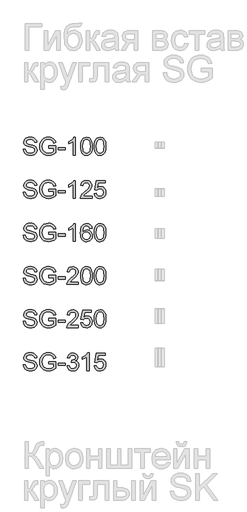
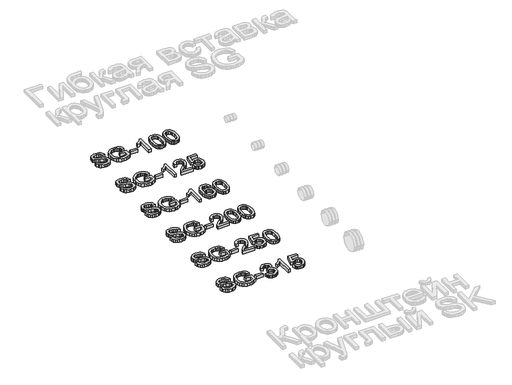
# One storey, part 7 of 31: 1 proxy.
"""IFC4 building model written with IfcOpenShell, lengths in millimetres."""

from ifc_helpers import new_model, si_unit, origin, origin_with_axes, place, context, project, spatial, polyline, outline, extrude, element, save

model = new_model("IFC4")

# Units and contexts
model_context = context("Model", 3, world=origin())
ifc_project = project(units=[si_unit("LENGTHUNIT", "METRE", prefix="MILLI")], contexts=[model_context])

# Site, building, storey
site = spatial("IfcSite", under=ifc_project)
building = spatial("IfcBuilding", under=site)
storey = spatial("IfcBuildingStorey", under=building, Name="Этаж 01", Elevation=0.0)

# Proxy
placement = place(None, origin())
element("IfcBuildingElementProxy", 1, Name="300 мм Arial", ObjectType="300 мм Arial", at=placement, inside=storey, context=model_context, shape_type="SweptSolid", body=[
    extrude(outline(polyline([(10389.7433415, -31301.6957444), (10427.4144578, -31301.6957444), (10431.7370713, -31322.6006388), (10439.5545637, -31339.4036489), (10451.7498518, -31352.7393712), (10469.2058525, -31363.2424022), (10490.5430082, -31370.0574161), (10514.3817615, -31372.3290875), (10535.3694293, -31370.6092391), (10553.745135, -31365.4496941), (10568.6351587, -31357.2827139), (10579.1657809, -31346.5405596), (10585.4289718, -31334.2073157), (10587.5167022, -31321.2670665), (10585.9532037, -31308.6579111), (10581.2627082, -31297.759407), (10571.7345646, -31288.4611896), (10555.6581214, -31280.6528943), (10500.8069159, -31266.2687082), (10464.8004656, -31256.7497616), (10441.7618557, -31247.6906675), (10423.009071, -31235.0171328), (10409.7193339, -31219.6580595), (10401.8006739, -31201.9445414), (10399.1611206, -31182.2076723), (10402.4260733, -31160.1439497), (10412.2209314, -31139.5701491), (10428.2881776, -31122.1325425), (10450.3702943, -31109.4774019), (10476.8761921, -31101.7794712), (10506.2147812, -31099.2134942), (10537.9997856, -31101.8990328), (10565.8116644, -31109.9556485), (10588.6571363, -31123.2177944), (10605.5429199, -31141.5199237), (10616.2298919, -31163.7216021), (10620.4789289, -31188.6823955), (10582.8078126, -31188.6823955), (10575.8916311, -31166.2048056), (10561.4706569, -31149.9812096), (10538.9378847, -31140.1587603), (10507.6863092, -31136.8846105), (10475.6989697, -31140.1219721), (10453.7548087, -31149.8340568), (10441.0628799, -31164.1262723), (10436.8322369, -31181.1040264), (10439.8304752, -31195.5801829), (10448.82519, -31207.223648), (10470.0887693, -31217.6347085), (10510.3350596, -31228.2664981), (10551.8689368, -31238.3648589), (10576.9952771, -31247.1756327), (10598.4703886, -31260.8424488), (10613.4523828, -31277.7098383), (10622.2539595, -31297.5938601), (10625.1878185, -31320.3105733), (10621.8125012, -31343.5331243), (10611.6865492, -31365.3761177), (10595.2238299, -31384.1748877), (10572.8382105, -31398.2647681), (10545.9184455, -31407.0663449), (10515.8532895, -31410.0002038), (10478.9455283, -31406.8364186), (10448.5676726, -31397.3450631), (10424.3702343, -31381.4893491), (10406.0037257, -31359.2324884), (10394.2131078, -31332.1195854), (10389.7433415, -31301.6957444)])), origin_with_axes(), (0.0, 0.0, 1.0), 50.0),
    extrude(outline(polyline([(10822.9611791, -31287.5690758), (10822.9611791, -31249.8979595), (10945.3923071, -31249.8979595), (10945.3923071, -31362.5434264), (10915.6398507, -31383.2367886), (10884.9492953, -31398.0808271), (10853.3942171, -31407.0203596), (10821.0481927, -31410.0002038), (10778.7877485, -31405.2637231), (10740.5924003, -31391.054281), (10708.8625783, -31367.8685183), (10685.9987123, -31336.2030755), (10672.1755463, -31298.2192595), (10667.5678243, -31256.078377), (10672.1571522, -31213.6339918), (10685.9251359, -31174.1510567), (10708.3015582, -31141.03248), (10738.7162022, -31117.6811704), (10775.7619191, -31103.8304133), (10818.0315603, -31099.2134942), (10849.0624066, -31101.8898358), (10876.966256, -31109.9188603), (10900.4647184, -31122.7211537), (10918.279404, -31139.7173019), (10931.4587765, -31161.7258423), (10941.0512995, -31189.5653123), (10906.3232392, -31199.3509733), (10898.5701261, -31179.4945426), (10889.14315, -31164.5125484), (10876.6719504, -31153.2185711), (10859.7861668, -31144.4261914), (10839.6538246, -31138.7700058), (10817.4429491, -31136.8846105), (10791.4428891, -31138.9171586), (10769.2136196, -31145.0148026), (10750.8379139, -31154.4141876), (10736.3985456, -31166.3519584), (10717.0111645, -31195.3778478), (10708.1819966, -31223.815126), (10705.2389406, -31254.5332726), (10708.7798048, -31290.558117), (10719.4023974, -31320.2002087), (10736.7848217, -31343.2480157), (10760.6051809, -31359.4900058), (10788.4814391, -31369.119317), (10818.0315603, -31372.3290875), (10844.1235908, -31369.9102633), (10869.5718279, -31362.653791), (10891.6723387, -31352.6565978), (10907.7211908, -31342.0156111), (10907.7211908, -31287.5690758), (10822.9611791, -31287.5690758)])), origin_with_axes(), (0.0, 0.0, 1.0), 50.0),
    extrude(outline(polyline([(10983.0634234, -31315.822413), (10983.0634234, -31278.1512967), (11100.7856618, -31278.1512967), (11100.7856618, -31315.822413), (10983.0634234, -31315.822413)])), origin_with_axes(), (0.0, 0.0, 1.0), 50.0),
    extrude(outline(polyline([(11275.0145747, -31405.2913142), (11237.3434584, -31405.2913142), (11237.3434584, -31170.4354485), (11201.6589049, -31195.8560944), (11162.0012258, -31214.8755935), (11162.0012258, -31179.2646164), (11191.5881353, -31163.1697791), (11217.2203133, -31144.0215212), (11237.4262319, -31123.6592528), (11250.7343631, -31103.9223838), (11275.0145747, -31103.9223838), (11275.0145747, -31405.2913142)])), origin_with_axes(), (0.0, 0.0, 1.0), 50.0),
    extrude(outline(polyline([(11364.483476, -31257.0348702), (11367.251788, -31208.7963435), (11375.556724, -31170.3250839), (11389.3155106, -31141.03248), (11408.4453744, -31120.3299208), (11433.084271, -31108.024268), (11463.3701563, -31103.9223838), (11486.5835102, -31106.3504049), (11507.3688429, -31113.6344684), (11524.7512672, -31125.4894657), (11537.7558957, -31141.6302883), (11547.578345, -31161.9189803), (11555.4142315, -31186.2175861), (11560.5461853, -31217.0736884), (11562.2568366, -31257.0348702), (11559.5161157, -31304.9974853), (11551.2939531, -31343.3767744), (11537.6179399, -31372.6969695), (11518.5156673, -31393.4823022), (11493.8215884, -31405.8707284), (11463.3701563, -31410.0002038), (11442.6216117, -31408.206779), (11424.227512, -31402.8265049), (11408.187857, -31393.8593812), (11394.5026468, -31381.3054081), (11381.3692595, -31358.6116876), (11371.9882687, -31330.3353577), (11366.3596741, -31296.4764186), (11364.483476, -31257.0348702)]), holes=[polyline([(11402.1545923, -31256.9612938), (11406.5691762, -31316.2178861), (11412.0874061, -31336.4858848), (11419.812928, -31350.5136851), (11439.531403, -31366.8752369), (11463.3701563, -31372.3290875), (11487.2089096, -31366.8568428), (11506.9273845, -31350.4401087), (11514.6529064, -31336.3893158), (11520.1711363, -31316.1259156), (11524.5857203, -31256.9612938), (11520.3182891, -31199.0382736), (11514.9840002, -31178.8369536), (11507.5159957, -31164.4757602), (11487.8343089, -31147.3140651), (11462.9286979, -31141.5935001), (11439.347462, -31146.6334834), (11420.4015392, -31161.7534334), (11412.4184999, -31177.3884182), (11406.716329, -31198.4680565), (11402.1545923, -31256.9612938)])]), origin_with_axes(), (0.0, 0.0, 1.0), 50.0),
    extrude(outline(polyline([(11595.2190633, -31257.0348702), (11597.9873754, -31208.7963435), (11606.2923114, -31170.3250839), (11620.051098, -31141.03248), (11639.1809618, -31120.3299208), (11663.8198584, -31108.024268), (11694.1057436, -31103.9223838), (11717.3190975, -31106.3504049), (11738.1044303, -31113.6344684), (11755.4868545, -31125.4894657), (11768.4914831, -31141.6302883), (11778.3139323, -31161.9189803), (11786.1498188, -31186.2175861), (11791.2817727, -31217.0736884), (11792.9924239, -31257.0348702), (11790.2517031, -31304.9974853), (11782.0295405, -31343.3767744), (11768.3535273, -31372.6969695), (11749.2512547, -31393.4823022), (11724.5571758, -31405.8707284), (11694.1057436, -31410.0002038), (11673.3571991, -31408.206779), (11654.9630994, -31402.8265049), (11638.9234444, -31393.8593812), (11625.2382341, -31381.3054081), (11612.1048469, -31358.6116876), (11602.723856, -31330.3353577), (11597.0952615, -31296.4764186), (11595.2190633, -31257.0348702)]), holes=[polyline([(11632.8901796, -31256.9612938), (11637.3047636, -31316.2178861), (11642.8229935, -31336.4858848), (11650.5485154, -31350.5136851), (11670.2669904, -31366.8752369), (11694.1057436, -31372.3290875), (11717.9444969, -31366.8568428), (11737.6629719, -31350.4401087), (11745.3884938, -31336.3893158), (11750.9067237, -31316.1259156), (11755.3213076, -31256.9612938), (11751.0538765, -31199.0382736), (11745.7195876, -31178.8369536), (11738.2515831, -31164.4757602), (11718.5698963, -31147.3140651), (11693.6642852, -31141.5935001), (11670.0830494, -31146.6334834), (11651.1371266, -31161.7534334), (11643.1540873, -31177.3884182), (11637.4519164, -31198.4680565), (11632.8901796, -31256.9612938)])]), origin_with_axes(), (0.0, 0.0, 1.0), 50.0),
    extrude(outline(polyline([(10389.7433415, -32033.5446515), (10427.4144578, -32033.5446515), (10431.7370713, -32054.4495458), (10439.5545637, -32071.252556), (10451.7498518, -32084.5882783), (10469.2058525, -32095.0913092), (10490.5430082, -32101.9063232), (10514.3817615, -32104.1779945), (10535.3694293, -32102.4581462), (10553.745135, -32097.2986012), (10568.6351587, -32089.1316209), (10579.1657809, -32078.3894667), (10585.4289718, -32066.0562228), (10587.5167022, -32053.1159736), (10585.9532037, -32040.5068182), (10581.2627082, -32029.6083141), (10571.7345646, -32020.3100967), (10555.6581214, -32012.5018013), (10500.8069159, -31998.1176153), (10464.8004656, -31988.5986687), (10441.7618557, -31979.5395746), (10423.009071, -31966.8660398), (10409.7193339, -31951.5069665), (10401.8006739, -31933.7934485), (10399.1611206, -31914.0565794), (10402.4260733, -31891.9928568), (10412.2209314, -31871.4190562), (10428.2881776, -31853.9814496), (10450.3702943, -31841.326309), (10476.8761921, -31833.6283782), (10506.2147812, -31831.0624013), (10537.9997856, -31833.7479399), (10565.8116644, -31841.8045556), (10588.6571363, -31855.0667015), (10605.5429199, -31873.3688308), (10616.2298919, -31895.5705092), (10620.4789289, -31920.5313025), (10582.8078126, -31920.5313025), (10575.8916311, -31898.0537126), (10561.4706569, -31881.8301166), (10538.9378847, -31872.0076674), (10507.6863092, -31868.7335176), (10475.6989697, -31871.9708792), (10453.7548087, -31881.6829638), (10441.0628799, -31895.9751794), (10436.8322369, -31912.9529334), (10439.8304752, -31927.4290899), (10448.82519, -31939.0725551), (10470.0887693, -31949.4836156), (10510.3350596, -31960.1154052), (10551.8689368, -31970.213766), (10576.9952771, -31979.0245398), (10598.4703886, -31992.6913559), (10613.4523828, -32009.5587454), (10622.2539595, -32029.4427672), (10625.1878185, -32052.1594804), (10621.8125012, -32075.3820314), (10611.6865492, -32097.2250248), (10595.2238299, -32116.0237948), (10572.8382105, -32130.1136752), (10545.9184455, -32138.9152519), (10515.8532895, -32141.8491108), (10478.9455283, -32138.6853257), (10448.5676726, -32129.1939702), (10424.3702343, -32113.3382562), (10406.0037257, -32091.0813955), (10394.2131078, -32063.9684925), (10389.7433415, -32033.5446515)])), origin_with_axes(), (0.0, 0.0, 1.0), 50.0),
    extrude(outline(polyline([(10822.9611791, -32019.4179828), (10822.9611791, -31981.7468665), (10945.3923071, -31981.7468665), (10945.3923071, -32094.3923335), (10915.6398507, -32115.0856957), (10884.9492953, -32129.9297342), (10853.3942171, -32138.8692667), (10821.0481927, -32141.8491108), (10778.7877485, -32137.1126301), (10740.5924003, -32122.9031881), (10708.8625783, -32099.7174253), (10685.9987123, -32068.0519826), (10672.1755463, -32030.0681666), (10667.5678243, -31987.9272841), (10672.1571522, -31945.4828989), (10685.9251359, -31905.9999637), (10708.3015582, -31872.8813871), (10738.7162022, -31849.5300775), (10775.7619191, -31835.6793203), (10818.0315603, -31831.0624013), (10849.0624066, -31833.7387428), (10876.966256, -31841.7677674), (10900.4647184, -31854.5700608), (10918.279404, -31871.566209), (10931.4587765, -31893.5747493), (10941.0512995, -31921.4142193), (10906.3232392, -31931.1998804), (10898.5701261, -31911.3434497), (10889.14315, -31896.3614555), (10876.6719504, -31885.0674782), (10859.7861668, -31876.2750985), (10839.6538246, -31870.6189128), (10817.4429491, -31868.7335176), (10791.4428891, -31870.7660656), (10769.2136196, -31876.8637097), (10750.8379139, -31886.2630947), (10736.3985456, -31898.2008654), (10717.0111645, -31927.2267548), (10708.1819966, -31955.6640331), (10705.2389406, -31986.3821797), (10708.7798048, -32022.407024), (10719.4023974, -32052.0491158), (10736.7848217, -32075.0969228), (10760.6051809, -32091.3389129), (10788.4814391, -32100.9682241), (10818.0315603, -32104.1779945), (10844.1235908, -32101.7591704), (10869.5718279, -32094.5026981), (10891.6723387, -32084.5055048), (10907.7211908, -32073.8645181), (10907.7211908, -32019.4179828), (10822.9611791, -32019.4179828)])), origin_with_axes(), (0.0, 0.0, 1.0), 50.0),
    extrude(outline(polyline([(10983.0634234, -32047.6713201), (10983.0634234, -32010.0002038), (11100.7856618, -32010.0002038), (11100.7856618, -32047.6713201), (10983.0634234, -32047.6713201)])), origin_with_axes(), (0.0, 0.0, 1.0), 50.0),
    extrude(outline(polyline([(11275.0145747, -32137.1402213), (11237.3434584, -32137.1402213), (11237.3434584, -31902.2843556), (11201.6589049, -31927.7050014), (11162.0012258, -31946.7245006), (11162.0012258, -31911.1135235), (11191.5881353, -31895.0186862), (11217.2203133, -31875.8704283), (11237.4262319, -31855.5081599), (11250.7343631, -31835.7712908), (11275.0145747, -31835.7712908), (11275.0145747, -32137.1402213)])), origin_with_axes(), (0.0, 0.0, 1.0), 50.0),
    extrude(outline(polyline([(11557.547947, -32099.469105), (11557.547947, -32137.1402213), (11359.7745864, -32137.1402213), (11363.8212884, -32111.1677524), (11373.1103088, -32090.8698634), (11386.7035485, -32071.1789796), (11406.3668411, -32050.5683908), (11433.8660203, -32027.5113867), (11474.5169807, -31991.4037689), (11498.907557, -31964.7507184), (11511.1028451, -31943.119257), (11515.1679412, -31922.0764069), (11511.3327714, -31903.2132576), (11499.827262, -31887.5322876), (11482.1413351, -31876.9648773), (11459.7649127, -31873.4424072), (11436.2664503, -31876.8821038), (11418.0103063, -31887.2011938), (11406.2288854, -31903.5903367), (11402.1545923, -31925.2401921), (11364.483476, -31920.5313025), (11373.6161465, -31884.0925909), (11382.1625051, -31869.5566536), (11393.3622126, -31857.4763286), (11406.9577516, -31847.9803746), (11422.6916047, -31841.1975503), (11460.5742531, -31835.7712908), (11480.7640769, -31837.279607), (11498.7328131, -31841.8045556), (11514.4804617, -31849.3461365), (11528.0070228, -31859.9043497), (11538.871038, -31872.6974461), (11546.6310488, -31886.9436764), (11551.2870553, -31902.6430405), (11552.8390575, -31919.7955385), (11551.1651944, -31937.8125593), (11546.1436052, -31955.5168803), (11537.2316638, -31973.5247039), (11523.8867445, -31992.4522326), (11502.6139681, -32015.0493841), (11469.9184558, -32044.0660765), (11426.5819567, -32080.302453), (11409.5858086, -32099.469105), (11557.547947, -32099.469105)])), origin_with_axes(), (0.0, 0.0, 1.0), 50.0),
    extrude(outline(polyline([(11595.2190633, -32057.0890991), (11632.8901796, -32052.3802096), (11639.8063612, -32074.9957553), (11651.8728906, -32091.1917601), (11669.0345857, -32100.9314359), (11691.2362641, -32104.1779945), (11718.2388025, -32099.662243), (11738.4723123, -32086.1149886), (11751.1090588, -32065.0997296), (11755.3213076, -32038.1799646), (11751.3757732, -32012.8328951), (11739.53917, -31993.445514), (11719.7195276, -31981.1398612), (11691.8248753, -31977.037977), (11673.5503372, -31978.6750519), (11658.7522839, -31983.5862765), (11637.5990692, -32000.5824247), (11599.9279529, -31995.8735351), (11632.8901796, -31840.4801804), (11778.8657553, -31840.4801804), (11778.8657553, -31878.1512967), (11663.3508088, -31878.1512967), (11647.2375775, -31961.1454748), (11674.1481454, -31944.8115142), (11702.3463003, -31939.3668607), (11720.6921156, -31941.0545193), (11737.5434102, -31946.1174953), (11752.9001843, -31954.5557886), (11766.7624377, -31966.3693991), (11778.2380567, -31980.8363586), (11786.4349274, -31997.2346985), (11791.3530498, -32015.5644189), (11792.9924239, -32035.8255198), (11787.0879179, -32073.4966361), (11779.7072854, -32090.2904492), (11769.3743999, -32105.7230989), (11753.721021, -32121.5282291), (11735.4556799, -32132.8176079), (11714.5783767, -32139.5912351), (11691.0891113, -32141.8491108), (11654.0893796, -32136.0457724), (11638.4107088, -32128.7915993), (11624.6128348, -32118.6357569), (11613.1326172, -32106.0840831), (11604.4069162, -32091.6424155), (11595.2190633, -32057.0890991)])), origin_with_axes(), (0.0, 0.0, 1.0), 50.0),
    extrude(outline(polyline([(10389.7433415, -32765.3935585), (10427.4144578, -32765.3935585), (10431.7370713, -32786.2984529), (10439.5545637, -32803.101463), (10451.7498518, -32816.4371854), (10469.2058525, -32826.9402163), (10490.5430082, -32833.7552303), (10514.3817615, -32836.0269016), (10535.3694293, -32834.3070533), (10553.745135, -32829.1475083), (10568.6351587, -32820.980528), (10579.1657809, -32810.2383737), (10585.4289718, -32797.9051298), (10587.5167022, -32784.9648807), (10585.9532037, -32772.3557253), (10581.2627082, -32761.4572212), (10571.7345646, -32752.1590037), (10555.6581214, -32744.3507084), (10500.8069159, -32729.9665224), (10464.8004656, -32720.4475758), (10441.7618557, -32711.3884816), (10423.009071, -32698.7149469), (10409.7193339, -32683.3558736), (10401.8006739, -32665.6423555), (10399.1611206, -32645.9054865), (10402.4260733, -32623.8417638), (10412.2209314, -32603.2679633), (10428.2881776, -32585.8303567), (10450.3702943, -32573.175216), (10476.8761921, -32565.4772853), (10506.2147812, -32562.9113084), (10537.9997856, -32565.5968469), (10565.8116644, -32573.6534626), (10588.6571363, -32586.9156086), (10605.5429199, -32605.2177378), (10616.2298919, -32627.4194162), (10620.4789289, -32652.3802096), (10582.8078126, -32652.3802096), (10575.8916311, -32629.9026197), (10561.4706569, -32613.6790237), (10538.9378847, -32603.8565744), (10507.6863092, -32600.5824247), (10475.6989697, -32603.8197862), (10453.7548087, -32613.5318709), (10441.0628799, -32627.8240864), (10436.8322369, -32644.8018405), (10439.8304752, -32659.277997), (10448.82519, -32670.9214622), (10470.0887693, -32681.3325226), (10510.3350596, -32691.9643123), (10551.8689368, -32702.0626731), (10576.9952771, -32710.8734468), (10598.4703886, -32724.540263), (10613.4523828, -32741.4076524), (10622.2539595, -32761.2916743), (10625.1878185, -32784.0083875), (10621.8125012, -32807.2309384), (10611.6865492, -32829.0739319), (10595.2238299, -32847.8727018), (10572.8382105, -32861.9625823), (10545.9184455, -32870.764159), (10515.8532895, -32873.6980179), (10478.9455283, -32870.5342327), (10448.5676726, -32861.0428773), (10424.3702343, -32845.1871633), (10406.0037257, -32822.9303026), (10394.2131078, -32795.8173995), (10389.7433415, -32765.3935585)])), origin_with_axes(), (0.0, 0.0, 1.0), 50.0),
    extrude(outline(polyline([(10822.9611791, -32751.2668899), (10822.9611791, -32713.5957736), (10945.3923071, -32713.5957736), (10945.3923071, -32826.2412405), (10915.6398507, -32846.9346028), (10884.9492953, -32861.7786413), (10853.3942171, -32870.7181737), (10821.0481927, -32873.6980179), (10778.7877485, -32868.9615372), (10740.5924003, -32854.7520952), (10708.8625783, -32831.5663324), (10685.9987123, -32799.9008897), (10672.1755463, -32761.9170737), (10667.5678243, -32719.7761911), (10672.1571522, -32677.3318059), (10685.9251359, -32637.8488708), (10708.3015582, -32604.7302942), (10738.7162022, -32581.3789845), (10775.7619191, -32567.5282274), (10818.0315603, -32562.9113084), (10849.0624066, -32565.5876499), (10876.966256, -32573.6166744), (10900.4647184, -32586.4189679), (10918.279404, -32603.415116), (10931.4587765, -32625.4236564), (10941.0512995, -32653.2631264), (10906.3232392, -32663.0487875), (10898.5701261, -32643.1923568), (10889.14315, -32628.2103625), (10876.6719504, -32616.9163853), (10859.7861668, -32608.1240056), (10839.6538246, -32602.4678199), (10817.4429491, -32600.5824247), (10791.4428891, -32602.6149727), (10769.2136196, -32608.7126168), (10750.8379139, -32618.1120018), (10736.3985456, -32630.0497725), (10717.0111645, -32659.0756619), (10708.1819966, -32687.5129401), (10705.2389406, -32718.2310867), (10708.7798048, -32754.2559311), (10719.4023974, -32783.8980229), (10736.7848217, -32806.9458299), (10760.6051809, -32823.18782), (10788.4814391, -32832.8171312), (10818.0315603, -32836.0269016), (10844.1235908, -32833.6080775), (10869.5718279, -32826.3516051), (10891.6723387, -32816.3544119), (10907.7211908, -32805.7134252), (10907.7211908, -32751.2668899), (10822.9611791, -32751.2668899)])), origin_with_axes(), (0.0, 0.0, 1.0), 50.0),
    extrude(outline(polyline([(10983.0634234, -32779.5202271), (10983.0634234, -32741.8491108), (11100.7856618, -32741.8491108), (11100.7856618, -32779.5202271), (10983.0634234, -32779.5202271)])), origin_with_axes(), (0.0, 0.0, 1.0), 50.0),
    extrude(outline(polyline([(11275.0145747, -32868.9891284), (11237.3434584, -32868.9891284), (11237.3434584, -32634.1332626), (11201.6589049, -32659.5539085), (11162.0012258, -32678.5734077), (11162.0012258, -32642.9624305), (11191.5881353, -32626.8675932), (11217.2203133, -32607.7193354), (11237.4262319, -32587.357067), (11250.7343631, -32567.6201979), (11275.0145747, -32567.6201979), (11275.0145747, -32868.9891284)])), origin_with_axes(), (0.0, 0.0, 1.0), 50.0),
    extrude(outline(polyline([(11557.547947, -32647.6713201), (11519.8768307, -32652.3802096), (11513.8067778, -32633.7101984), (11505.6030093, -32620.9630872), (11488.5148906, -32609.2092575), (11467.8583166, -32605.2913142), (11450.3471336, -32607.5721826), (11433.8660203, -32614.4147877), (11419.7117605, -32628.8265649), (11408.1510688, -32648.6646015), (11400.3427734, -32676.7248006), (11397.4457027, -32715.8030656), (11412.5564557, -32698.172321), (11430.6654469, -32685.7471066), (11450.7610009, -32678.3802696), (11471.8314422, -32675.9246573), (11489.9312363, -32677.6031189), (11506.6330789, -32682.6385037), (11521.9369699, -32691.0308117), (11535.8429093, -32702.7800429), (11547.3990025, -32717.1872216), (11555.6533548, -32733.5533718), (11560.6059661, -32751.8784937), (11562.2568366, -32772.1625872), (11559.1482337, -32799.1375345), (11549.8224251, -32824.1443132), (11535.051963, -32845.3527102), (11515.6093996, -32860.9325127), (11492.3776516, -32870.5066416), (11466.2396358, -32873.6980179), (11443.7827393, -32871.5826964), (11423.500945, -32865.236732), (11405.3942531, -32854.6601247), (11389.4626634, -32839.8528743), (11376.4741297, -32820.1895817), (11367.1966057, -32795.0448473), (11361.6300912, -32764.4186712), (11359.7745864, -32728.3110534), (11361.8347256, -32687.8302384), (11368.0151431, -32653.2815205), (11378.315839, -32624.6648998), (11392.7368132, -32601.9803763), (11408.3671995, -32586.9477982), (11426.4899863, -32576.2102425), (11447.1051736, -32569.7677091), (11470.2127614, -32567.6201979), (11503.2669586, -32572.9360927), (11529.7360682, -32588.8837772), (11548.2773208, -32614.2124526), (11557.547947, -32647.6713201)]), holes=[polyline([(11397.4457027, -32771.573976), (11399.6254036, -32788.2666216), (11406.164506, -32804.205109), (11416.3180491, -32817.9087133), (11429.3410717, -32827.8967095), (11445.05883, -32833.9943536), (11463.2965799, -32836.0269016), (11488.1562057, -32831.8146528), (11507.6999367, -32819.1779062), (11520.3642744, -32799.3122785), (11524.5857203, -32773.413386), (11520.4194567, -32748.5537602), (11507.9206659, -32729.5986404), (11488.0458411, -32717.5964903), (11461.7514755, -32713.5957736), (11436.9286379, -32717.5964903), (11416.1708963, -32729.5986404), (11402.1270011, -32748.0939077), (11397.4457027, -32771.573976)])]), origin_with_axes(), (0.0, 0.0, 1.0), 50.0),
    extrude(outline(polyline([(11595.2190633, -32720.7326843), (11597.9873754, -32672.4941577), (11606.2923114, -32634.022898), (11620.051098, -32604.7302942), (11639.1809618, -32584.0277349), (11663.8198584, -32571.7220822), (11694.1057436, -32567.6201979), (11717.3190975, -32570.0482191), (11738.1044303, -32577.3322826), (11755.4868545, -32589.1872799), (11768.4914831, -32605.3281024), (11778.3139323, -32625.6167945), (11786.1498188, -32649.9154002), (11791.2817727, -32680.7715026), (11792.9924239, -32720.7326843), (11790.2517031, -32768.6952994), (11782.0295405, -32807.0745886), (11768.3535273, -32836.3947836), (11749.2512547, -32857.1801163), (11724.5571758, -32869.5685425), (11694.1057436, -32873.6980179), (11673.3571991, -32871.9045932), (11654.9630994, -32866.524319), (11638.9234444, -32857.5571954), (11625.2382341, -32845.0032223), (11612.1048469, -32822.3095017), (11602.723856, -32794.0331718), (11597.0952615, -32760.1742327), (11595.2190633, -32720.7326843)]), holes=[polyline([(11632.8901796, -32720.6591079), (11637.3047636, -32779.9157003), (11642.8229935, -32800.183699), (11650.5485154, -32814.2114993), (11670.2669904, -32830.573051), (11694.1057436, -32836.0269016), (11717.9444969, -32830.5546569), (11737.6629719, -32814.1379229), (11745.3884938, -32800.0871299), (11750.9067237, -32779.8237298), (11755.3213076, -32720.6591079), (11751.0538765, -32662.7360878), (11745.7195876, -32642.5347677), (11738.2515831, -32628.1735743), (11718.5698963, -32611.0118792), (11693.6642852, -32605.2913142), (11670.0830494, -32610.3312976), (11651.1371266, -32625.4512476), (11643.1540873, -32641.0862324), (11637.4519164, -32662.1658707), (11632.8901796, -32720.6591079)])]), origin_with_axes(), (0.0, 0.0, 1.0), 50.0),
    extrude(outline(polyline([(10389.7433415, -33497.2424656), (10427.4144578, -33497.2424656), (10431.7370713, -33518.14736), (10439.5545637, -33534.9503701), (10451.7498518, -33548.2860924), (10469.2058525, -33558.7891234), (10490.5430082, -33565.6041373), (10514.3817615, -33567.8758087), (10535.3694293, -33566.1559603), (10553.745135, -33560.9964154), (10568.6351587, -33552.8294351), (10579.1657809, -33542.0872808), (10585.4289718, -33529.7540369), (10587.5167022, -33516.8137877), (10585.9532037, -33504.2046324), (10581.2627082, -33493.3061282), (10571.7345646, -33484.0079108), (10555.6581214, -33476.1996155), (10500.8069159, -33461.8154295), (10464.8004656, -33452.2964828), (10441.7618557, -33443.2373887), (10423.009071, -33430.563854), (10409.7193339, -33415.2047807), (10401.8006739, -33397.4912626), (10399.1611206, -33377.7543936), (10402.4260733, -33355.6906709), (10412.2209314, -33335.1168703), (10428.2881776, -33317.6792638), (10450.3702943, -33305.0241231), (10476.8761921, -33297.3261924), (10506.2147812, -33294.7602155), (10537.9997856, -33297.445754), (10565.8116644, -33305.5023697), (10588.6571363, -33318.7645156), (10605.5429199, -33337.0666449), (10616.2298919, -33359.2683233), (10620.4789289, -33384.2291167), (10582.8078126, -33384.2291167), (10575.8916311, -33361.7515268), (10561.4706569, -33345.5279308), (10538.9378847, -33335.7054815), (10507.6863092, -33332.4313318), (10475.6989697, -33335.6686933), (10453.7548087, -33345.380778), (10441.0628799, -33359.6729935), (10436.8322369, -33376.6507476), (10439.8304752, -33391.1269041), (10448.82519, -33402.7703692), (10470.0887693, -33413.1814297), (10510.3350596, -33423.8132194), (10551.8689368, -33433.9115801), (10576.9952771, -33442.7223539), (10598.4703886, -33456.38917), (10613.4523828, -33473.2565595), (10622.2539595, -33493.1405813), (10625.1878185, -33515.8572946), (10621.8125012, -33539.0798455), (10611.6865492, -33560.922839), (10595.2238299, -33579.7216089), (10572.8382105, -33593.8114893), (10545.9184455, -33602.6130661), (10515.8532895, -33605.546925), (10478.9455283, -33602.3831398), (10448.5676726, -33592.8917843), (10424.3702343, -33577.0360703), (10406.0037257, -33554.7792096), (10394.2131078, -33527.6663066), (10389.7433415, -33497.2424656)])), origin_with_axes(), (0.0, 0.0, 1.0), 50.0),
    extrude(outline(polyline([(10822.9611791, -33483.115797), (10822.9611791, -33445.4446807), (10945.3923071, -33445.4446807), (10945.3923071, -33558.0901476), (10915.6398507, -33578.7835098), (10884.9492953, -33593.6275483), (10853.3942171, -33602.5670808), (10821.0481927, -33605.546925), (10778.7877485, -33600.8104443), (10740.5924003, -33586.6010022), (10708.8625783, -33563.4152395), (10685.9987123, -33531.7497967), (10672.1755463, -33493.7659807), (10667.5678243, -33451.6250982), (10672.1571522, -33409.180713), (10685.9251359, -33369.6977779), (10708.3015582, -33336.5792013), (10738.7162022, -33313.2278916), (10775.7619191, -33299.3771345), (10818.0315603, -33294.7602155), (10849.0624066, -33297.436557), (10876.966256, -33305.4655815), (10900.4647184, -33318.2678749), (10918.279404, -33335.2640231), (10931.4587765, -33357.2725635), (10941.0512995, -33385.1120335), (10906.3232392, -33394.8976945), (10898.5701261, -33375.0412638), (10889.14315, -33360.0592696), (10876.6719504, -33348.7652923), (10859.7861668, -33339.9729127), (10839.6538246, -33334.316727), (10817.4429491, -33332.4313318), (10791.4428891, -33334.4638798), (10769.2136196, -33340.5615239), (10750.8379139, -33349.9609088), (10736.3985456, -33361.8986796), (10717.0111645, -33390.924569), (10708.1819966, -33419.3618472), (10705.2389406, -33450.0799938), (10708.7798048, -33486.1048382), (10719.4023974, -33515.74693), (10736.7848217, -33538.794737), (10760.6051809, -33555.036727), (10788.4814391, -33564.6660383), (10818.0315603, -33567.8758087), (10844.1235908, -33565.4569846), (10869.5718279, -33558.2005122), (10891.6723387, -33548.203319), (10907.7211908, -33537.5623323), (10907.7211908, -33483.115797), (10822.9611791, -33483.115797)])), origin_with_axes(), (0.0, 0.0, 1.0), 50.0),
    extrude(outline(polyline([(10983.0634234, -33511.3691342), (10983.0634234, -33473.6980179), (11100.7856618, -33473.6980179), (11100.7856618, -33511.3691342), (10983.0634234, -33511.3691342)])), origin_with_axes(), (0.0, 0.0, 1.0), 50.0),
    extrude(outline(polyline([(11326.8123597, -33563.1669191), (11326.8123597, -33600.8380354), (11129.0389991, -33600.8380354), (11133.085701, -33574.8655666), (11142.3747214, -33554.5676775), (11155.9679611, -33534.8767937), (11175.6312537, -33514.2662049), (11203.1304329, -33491.2092009), (11243.7813933, -33455.101583), (11268.1719696, -33428.4485325), (11280.3672578, -33406.8170712), (11284.4323538, -33385.7742211), (11280.597184, -33366.9110718), (11269.0916746, -33351.2301017), (11251.4057477, -33340.6626914), (11229.0293253, -33337.1402213), (11205.5308629, -33340.579918), (11187.2747189, -33350.8990079), (11175.493298, -33367.2881508), (11171.4190049, -33388.9380062), (11133.7478886, -33384.2291167), (11142.8805591, -33347.7904051), (11151.4269177, -33333.2544677), (11162.6266252, -33321.1741427), (11176.2221642, -33311.6781887), (11191.9560173, -33304.8953644), (11229.8386657, -33299.469105), (11250.0284895, -33300.9774212), (11267.9972257, -33305.5023697), (11283.7448743, -33313.0439506), (11297.2714354, -33323.6021639), (11308.1354506, -33336.3952603), (11315.8954615, -33350.6414905), (11320.551468, -33366.3408547), (11322.1034701, -33383.4933527), (11320.429607, -33401.5103734), (11315.4080178, -33419.2146944), (11306.4960765, -33437.2225181), (11293.1511571, -33456.1500467), (11271.8783807, -33478.7471983), (11239.1828684, -33507.7638907), (11195.8463694, -33544.0002672), (11178.8502212, -33563.1669191), (11326.8123597, -33563.1669191)])), origin_with_axes(), (0.0, 0.0, 1.0), 50.0),
    extrude(outline(polyline([(11364.483476, -33452.5815914), (11367.251788, -33404.3430648), (11375.556724, -33365.8718051), (11389.3155106, -33336.5792013), (11408.4453744, -33315.876642), (11433.084271, -33303.5709892), (11463.3701563, -33299.469105), (11486.5835102, -33301.8971262), (11507.3688429, -33309.1811897), (11524.7512672, -33321.036187), (11537.7558957, -33337.1770095), (11547.578345, -33357.4657015), (11555.4142315, -33381.7643073), (11560.5461853, -33412.6204097), (11562.2568366, -33452.5815914), (11559.5161157, -33500.5442065), (11551.2939531, -33538.9234956), (11537.6179399, -33568.2436907), (11518.5156673, -33589.0290234), (11493.8215884, -33601.4174496), (11463.3701563, -33605.546925), (11442.6216117, -33603.7535002), (11424.227512, -33598.3732261), (11408.187857, -33589.4061024), (11394.5026468, -33576.8521294), (11381.3692595, -33554.1584088), (11371.9882687, -33525.8820789), (11366.3596741, -33492.0231398), (11364.483476, -33452.5815914)]), holes=[polyline([(11402.1545923, -33452.508015), (11406.5691762, -33511.7646074), (11412.0874061, -33532.032606), (11419.812928, -33546.0604064), (11439.531403, -33562.4219581), (11463.3701563, -33567.8758087), (11487.2089096, -33562.403564), (11506.9273845, -33545.98683), (11514.6529064, -33531.936037), (11520.1711363, -33511.6726369), (11524.5857203, -33452.508015), (11520.3182891, -33394.5849948), (11514.9840002, -33374.3836748), (11507.5159957, -33360.0224814), (11487.8343089, -33342.8607863), (11462.9286979, -33337.1402213), (11439.347462, -33342.1802046), (11420.4015392, -33357.3001546), (11412.4184999, -33372.9351394), (11406.716329, -33394.0147777), (11402.1545923, -33452.508015)])]), origin_with_axes(), (0.0, 0.0, 1.0), 50.0),
    extrude(outline(polyline([(11595.2190633, -33452.5815914), (11597.9873754, -33404.3430648), (11606.2923114, -33365.8718051), (11620.051098, -33336.5792013), (11639.1809618, -33315.876642), (11663.8198584, -33303.5709892), (11694.1057436, -33299.469105), (11717.3190975, -33301.8971262), (11738.1044303, -33309.1811897), (11755.4868545, -33321.036187), (11768.4914831, -33337.1770095), (11778.3139323, -33357.4657015), (11786.1498188, -33381.7643073), (11791.2817727, -33412.6204097), (11792.9924239, -33452.5815914), (11790.2517031, -33500.5442065), (11782.0295405, -33538.9234956), (11768.3535273, -33568.2436907), (11749.2512547, -33589.0290234), (11724.5571758, -33601.4174496), (11694.1057436, -33605.546925), (11673.3571991, -33603.7535002), (11654.9630994, -33598.3732261), (11638.9234444, -33589.4061024), (11625.2382341, -33576.8521294), (11612.1048469, -33554.1584088), (11602.723856, -33525.8820789), (11597.0952615, -33492.0231398), (11595.2190633, -33452.5815914)]), holes=[polyline([(11632.8901796, -33452.508015), (11637.3047636, -33511.7646074), (11642.8229935, -33532.032606), (11650.5485154, -33546.0604064), (11670.2669904, -33562.4219581), (11694.1057436, -33567.8758087), (11717.9444969, -33562.403564), (11737.6629719, -33545.98683), (11745.3884938, -33531.936037), (11750.9067237, -33511.6726369), (11755.3213076, -33452.508015), (11751.0538765, -33394.5849948), (11745.7195876, -33374.3836748), (11738.2515831, -33360.0224814), (11718.5698963, -33342.8607863), (11693.6642852, -33337.1402213), (11670.0830494, -33342.1802046), (11651.1371266, -33357.3001546), (11643.1540873, -33372.9351394), (11637.4519164, -33394.0147777), (11632.8901796, -33452.508015)])]), origin_with_axes(), (0.0, 0.0, 1.0), 50.0),
    extrude(outline(polyline([(10389.7433415, -34229.0913727), (10427.4144578, -34229.0913727), (10431.7370713, -34249.996267), (10439.5545637, -34266.7992772), (10451.7498518, -34280.1349995), (10469.2058525, -34290.6380305), (10490.5430082, -34297.4530444), (10514.3817615, -34299.7247157), (10535.3694293, -34298.0048674), (10553.745135, -34292.8453224), (10568.6351587, -34284.6783421), (10579.1657809, -34273.9361879), (10585.4289718, -34261.602944), (10587.5167022, -34248.6626948), (10585.9532037, -34236.0535394), (10581.2627082, -34225.1550353), (10571.7345646, -34215.8568179), (10555.6581214, -34208.0485225), (10500.8069159, -34193.6643365), (10464.8004656, -34184.1453899), (10441.7618557, -34175.0862958), (10423.009071, -34162.412761), (10409.7193339, -34147.0536877), (10401.8006739, -34129.3401697), (10399.1611206, -34109.6033006), (10402.4260733, -34087.539578), (10412.2209314, -34066.9657774), (10428.2881776, -34049.5281708), (10450.3702943, -34036.8730302), (10476.8761921, -34029.1750994), (10506.2147812, -34026.6091225), (10537.9997856, -34029.2946611), (10565.8116644, -34037.3512768), (10588.6571363, -34050.6134227), (10605.5429199, -34068.915552), (10616.2298919, -34091.1172304), (10620.4789289, -34116.0780237), (10582.8078126, -34116.0780237), (10575.8916311, -34093.6004338), (10561.4706569, -34077.3768379), (10538.9378847, -34067.5543886), (10507.6863092, -34064.2802388), (10475.6989697, -34067.5176004), (10453.7548087, -34077.2296851), (10441.0628799, -34091.5219006), (10436.8322369, -34108.4996546), (10439.8304752, -34122.9758112), (10448.82519, -34134.6192763), (10470.0887693, -34145.0303368), (10510.3350596, -34155.6621264), (10551.8689368, -34165.7604872), (10576.9952771, -34174.571261), (10598.4703886, -34188.2380771), (10613.4523828, -34205.1054666), (10622.2539595, -34224.9894884), (10625.1878185, -34247.7062016), (10621.8125012, -34270.9287526), (10611.6865492, -34292.771746), (10595.2238299, -34311.570516), (10572.8382105, -34325.6603964), (10545.9184455, -34334.4619731), (10515.8532895, -34337.395832), (10478.9455283, -34334.2320469), (10448.5676726, -34324.7406914), (10424.3702343, -34308.8849774), (10406.0037257, -34286.6281167), (10394.2131078, -34259.5152137), (10389.7433415, -34229.0913727)])), origin_with_axes(), (0.0, 0.0, 1.0), 50.0),
    extrude(outline(polyline([(10822.9611791, -34214.9647041), (10822.9611791, -34177.2935877), (10945.3923071, -34177.2935877), (10945.3923071, -34289.9390547), (10915.6398507, -34310.6324169), (10884.9492953, -34325.4764554), (10853.3942171, -34334.4159879), (10821.0481927, -34337.395832), (10778.7877485, -34332.6593514), (10740.5924003, -34318.4499093), (10708.8625783, -34295.2641465), (10685.9987123, -34263.5987038), (10672.1755463, -34225.6148878), (10667.5678243, -34183.4740053), (10672.1571522, -34141.0296201), (10685.9251359, -34101.5466849), (10708.3015582, -34068.4281083), (10738.7162022, -34045.0767987), (10775.7619191, -34031.2260416), (10818.0315603, -34026.6091225), (10849.0624066, -34029.285464), (10876.966256, -34037.3144886), (10900.4647184, -34050.116782), (10918.279404, -34067.1129302), (10931.4587765, -34089.1214706), (10941.0512995, -34116.9609405), (10906.3232392, -34126.7466016), (10898.5701261, -34106.8901709), (10889.14315, -34091.9081767), (10876.6719504, -34080.6141994), (10859.7861668, -34071.8218197), (10839.6538246, -34066.1656341), (10817.4429491, -34064.2802388), (10791.4428891, -34066.3127869), (10769.2136196, -34072.4104309), (10750.8379139, -34081.8098159), (10736.3985456, -34093.7475866), (10717.0111645, -34122.7734761), (10708.1819966, -34151.2107543), (10705.2389406, -34181.9289009), (10708.7798048, -34217.9537453), (10719.4023974, -34247.595837), (10736.7848217, -34270.643644), (10760.6051809, -34286.8856341), (10788.4814391, -34296.5149453), (10818.0315603, -34299.7247157), (10844.1235908, -34297.3058916), (10869.5718279, -34290.0494193), (10891.6723387, -34280.052226), (10907.7211908, -34269.4112393), (10907.7211908, -34214.9647041), (10822.9611791, -34214.9647041)])), origin_with_axes(), (0.0, 0.0, 1.0), 50.0),
    extrude(outline(polyline([(10983.0634234, -34243.2180413), (10983.0634234, -34205.546925), (11100.7856618, -34205.546925), (11100.7856618, -34243.2180413), (10983.0634234, -34243.2180413)])), origin_with_axes(), (0.0, 0.0, 1.0), 50.0),
    extrude(outline(polyline([(11326.8123597, -34295.0158262), (11326.8123597, -34332.6869425), (11129.0389991, -34332.6869425), (11133.085701, -34306.7144736), (11142.3747214, -34286.4165846), (11155.9679611, -34266.7257008), (11175.6312537, -34246.115112), (11203.1304329, -34223.0581079), (11243.7813933, -34186.9504901), (11268.1719696, -34160.2974396), (11280.3672578, -34138.6659783), (11284.4323538, -34117.6231281), (11280.597184, -34098.7599788), (11269.0916746, -34083.0790088), (11251.4057477, -34072.5115985), (11229.0293253, -34068.9891284), (11205.5308629, -34072.428825), (11187.2747189, -34082.747915), (11175.493298, -34099.1370579), (11171.4190049, -34120.7869133), (11133.7478886, -34116.0780237), (11142.8805591, -34079.6393121), (11151.4269177, -34065.1033748), (11162.6266252, -34053.0230498), (11176.2221642, -34043.5270958), (11191.9560173, -34036.7442715), (11229.8386657, -34031.3180121), (11250.0284895, -34032.8263282), (11267.9972257, -34037.3512768), (11283.7448743, -34044.8928577), (11297.2714354, -34055.4510709), (11308.1354506, -34068.2441673), (11315.8954615, -34082.4903976), (11320.551468, -34098.1897617), (11322.1034701, -34115.3422598), (11320.429607, -34133.3592805), (11315.4080178, -34151.0636015), (11306.4960765, -34169.0714252), (11293.1511571, -34187.9989538), (11271.8783807, -34210.5961054), (11239.1828684, -34239.6127977), (11195.8463694, -34275.8491743), (11178.8502212, -34295.0158262), (11326.8123597, -34295.0158262)])), origin_with_axes(), (0.0, 0.0, 1.0), 50.0),
    extrude(outline(polyline([(11364.483476, -34252.6358204), (11402.1545923, -34247.9269308), (11409.0707738, -34270.5424765), (11421.1373032, -34286.7384813), (11438.2989983, -34296.4781571), (11460.5006767, -34299.7247157), (11487.5032152, -34295.2089643), (11507.7367249, -34281.6617098), (11520.3734714, -34260.6464508), (11524.5857203, -34233.7266858), (11520.6401859, -34208.3796163), (11508.8035827, -34188.9922352), (11488.9839402, -34176.6865825), (11461.0892879, -34172.5846982), (11442.8147498, -34174.2217731), (11428.0166965, -34179.1329977), (11406.8634818, -34196.1291459), (11369.1923655, -34191.4202564), (11402.1545923, -34036.0269016), (11548.130168, -34036.0269016), (11548.130168, -34073.6980179), (11432.6152215, -34073.6980179), (11416.5019901, -34156.692196), (11443.412558, -34140.3582354), (11471.610713, -34134.9135819), (11489.9565282, -34136.6012406), (11506.8078228, -34141.6642165), (11522.1645969, -34150.1025098), (11536.0268503, -34161.9161203), (11547.5024693, -34176.3830798), (11555.69934, -34192.7814197), (11560.6174624, -34211.1111402), (11562.2568366, -34231.372241), (11556.3523305, -34269.0433573), (11548.971698, -34285.8371704), (11538.6388125, -34301.2698201), (11522.9854336, -34317.0749503), (11504.7200925, -34328.3643291), (11483.8427893, -34335.1379563), (11460.3535239, -34337.395832), (11423.3537922, -34331.5924936), (11407.6751215, -34324.3383205), (11393.8772474, -34314.1824782), (11382.3970299, -34301.6308043), (11373.6713288, -34287.1891368), (11364.483476, -34252.6358204)])), origin_with_axes(), (0.0, 0.0, 1.0), 50.0),
    extrude(outline(polyline([(11595.2190633, -34184.4304985), (11597.9873754, -34136.1919718), (11606.2923114, -34097.7207122), (11620.051098, -34068.4281083), (11639.1809618, -34047.725549), (11663.8198584, -34035.4198963), (11694.1057436, -34031.3180121), (11717.3190975, -34033.7460332), (11738.1044303, -34041.0300967), (11755.4868545, -34052.885094), (11768.4914831, -34069.0259166), (11778.3139323, -34089.3146086), (11786.1498188, -34113.6132144), (11791.2817727, -34144.4693167), (11792.9924239, -34184.4304985), (11790.2517031, -34232.3931136), (11782.0295405, -34270.7724027), (11768.3535273, -34300.0925977), (11749.2512547, -34320.8779305), (11724.5571758, -34333.2663567), (11694.1057436, -34337.395832), (11673.3571991, -34335.6024073), (11654.9630994, -34330.2221331), (11638.9234444, -34321.2550095), (11625.2382341, -34308.7010364), (11612.1048469, -34286.0073158), (11602.723856, -34257.730986), (11597.0952615, -34223.8720469), (11595.2190633, -34184.4304985)]), holes=[polyline([(11632.8901796, -34184.3569221), (11637.3047636, -34243.6135144), (11642.8229935, -34263.8815131), (11650.5485154, -34277.9093134), (11670.2669904, -34294.2708652), (11694.1057436, -34299.7247157), (11717.9444969, -34294.2524711), (11737.6629719, -34277.835737), (11745.3884938, -34263.7849441), (11750.9067237, -34243.5215439), (11755.3213076, -34184.3569221), (11751.0538765, -34126.4339019), (11745.7195876, -34106.2325819), (11738.2515831, -34091.8713885), (11718.5698963, -34074.7096934), (11693.6642852, -34068.9891284), (11670.0830494, -34074.0291117), (11651.1371266, -34089.1490617), (11643.1540873, -34104.7840465), (11637.4519164, -34125.8636848), (11632.8901796, -34184.3569221)])]), origin_with_axes(), (0.0, 0.0, 1.0), 50.0),
    extrude(outline(polyline([(10389.7433415, -34960.9402797), (10427.4144578, -34960.9402797), (10431.7370713, -34981.8451741), (10439.5545637, -34998.6481842), (10451.7498518, -35011.9839066), (10469.2058525, -35022.4869375), (10490.5430082, -35029.3019515), (10514.3817615, -35031.5736228), (10535.3694293, -35029.8537745), (10553.745135, -35024.6942295), (10568.6351587, -35016.5272492), (10579.1657809, -35005.785095), (10585.4289718, -34993.4518511), (10587.5167022, -34980.5116019), (10585.9532037, -34967.9024465), (10581.2627082, -34957.0039424), (10571.7345646, -34947.705725), (10555.6581214, -34939.8974296), (10500.8069159, -34925.5132436), (10464.8004656, -34915.994297), (10441.7618557, -34906.9352028), (10423.009071, -34894.2616681), (10409.7193339, -34878.9025948), (10401.8006739, -34861.1890767), (10399.1611206, -34841.4522077), (10402.4260733, -34819.388485), (10412.2209314, -34798.8146845), (10428.2881776, -34781.3770779), (10450.3702943, -34768.7219373), (10476.8761921, -34761.0240065), (10506.2147812, -34758.4580296), (10537.9997856, -34761.1435682), (10565.8116644, -34769.2001839), (10588.6571363, -34782.4623298), (10605.5429199, -34800.764459), (10616.2298919, -34822.9661374), (10620.4789289, -34847.9269308), (10582.8078126, -34847.9269308), (10575.8916311, -34825.4493409), (10561.4706569, -34809.2257449), (10538.9378847, -34799.4032957), (10507.6863092, -34796.1291459), (10475.6989697, -34799.3665075), (10453.7548087, -34809.0785921), (10441.0628799, -34823.3708076), (10436.8322369, -34840.3485617), (10439.8304752, -34854.8247182), (10448.82519, -34866.4681834), (10470.0887693, -34876.8792438), (10510.3350596, -34887.5110335), (10551.8689368, -34897.6093943), (10576.9952771, -34906.4201681), (10598.4703886, -34920.0869842), (10613.4523828, -34936.9543737), (10622.2539595, -34956.8383955), (10625.1878185, -34979.5551087), (10621.8125012, -35002.7776596), (10611.6865492, -35024.6206531), (10595.2238299, -35043.4194231), (10572.8382105, -35057.5093035), (10545.9184455, -35066.3108802), (10515.8532895, -35069.2447391), (10478.9455283, -35066.080954), (10448.5676726, -35056.5895985), (10424.3702343, -35040.7338845), (10406.0037257, -35018.4770238), (10394.2131078, -34991.3641207), (10389.7433415, -34960.9402797)])), origin_with_axes(), (0.0, 0.0, 1.0), 50.0),
    extrude(outline(polyline([(10822.9611791, -34946.8136111), (10822.9611791, -34909.1424948), (10945.3923071, -34909.1424948), (10945.3923071, -35021.7879617), (10915.6398507, -35042.481324), (10884.9492953, -35057.3253625), (10853.3942171, -35066.264895), (10821.0481927, -35069.2447391), (10778.7877485, -35064.5082584), (10740.5924003, -35050.2988164), (10708.8625783, -35027.1130536), (10685.9987123, -34995.4476109), (10672.1755463, -34957.4637949), (10667.5678243, -34915.3229123), (10672.1571522, -34872.8785271), (10685.9251359, -34833.395592), (10708.3015582, -34800.2770154), (10738.7162022, -34776.9257058), (10775.7619191, -34763.0749486), (10818.0315603, -34758.4580296), (10849.0624066, -34761.1343711), (10876.966256, -34769.1633957), (10900.4647184, -34781.9656891), (10918.279404, -34798.9618373), (10931.4587765, -34820.9703776), (10941.0512995, -34848.8098476), (10906.3232392, -34858.5955087), (10898.5701261, -34838.739078), (10889.14315, -34823.7570837), (10876.6719504, -34812.4631065), (10859.7861668, -34803.6707268), (10839.6538246, -34798.0145411), (10817.4429491, -34796.1291459), (10791.4428891, -34798.1616939), (10769.2136196, -34804.259338), (10750.8379139, -34813.658723), (10736.3985456, -34825.5964937), (10717.0111645, -34854.6223831), (10708.1819966, -34883.0596614), (10705.2389406, -34913.777808), (10708.7798048, -34949.8026523), (10719.4023974, -34979.4447441), (10736.7848217, -35002.4925511), (10760.6051809, -35018.7345412), (10788.4814391, -35028.3638524), (10818.0315603, -35031.5736228), (10844.1235908, -35029.1547987), (10869.5718279, -35021.8983263), (10891.6723387, -35011.9011331), (10907.7211908, -35001.2601464), (10907.7211908, -34946.8136111), (10822.9611791, -34946.8136111)])), origin_with_axes(), (0.0, 0.0, 1.0), 50.0),
    extrude(outline(polyline([(10983.0634234, -34975.0669484), (10983.0634234, -34937.395832), (11100.7856618, -34937.395832), (11100.7856618, -34975.0669484), (10983.0634234, -34975.0669484)])), origin_with_axes(), (0.0, 0.0, 1.0), 50.0),
    extrude(outline(polyline([(11133.7478886, -34984.4847274), (11171.4190049, -34979.7758379), (11179.8526996, -35003.4490443), (11192.2043376, -35019.433517), (11209.0809242, -35028.5385964), (11231.0894645, -35031.5736228), (11256.9147806, -35027.3981622), (11276.8539847, -35014.8717802), (11289.6010958, -34996.1833749), (11293.8501329, -34973.521844), (11289.637884, -34952.0099443), (11277.0011375, -34934.5631407), (11257.8712738, -34923.002449), (11234.1796733, -34919.1488851), (11207.765746, -34923.2691634), (11211.9596008, -34885.5980471), (11217.9928655, -34886.0395055), (11240.5624259, -34883.3355729), (11260.7407533, -34875.2237749), (11274.9777865, -34861.5017764), (11279.7234643, -34841.9672425), (11276.2837676, -34825.6976613), (11265.9646777, -34812.4998947), (11250.2193283, -34803.7535002), (11230.5008533, -34800.8380354), (11210.7455902, -34803.7810914), (11194.5955706, -34812.6102593), (11182.8049526, -34827.3255391), (11176.1278944, -34847.9269308), (11138.4567781, -34843.2180413), (11149.5484203, -34809.3912918), (11169.2852893, -34784.1361929), (11196.2878278, -34768.4092376), (11229.1764781, -34763.1669191), (11252.8588816, -34765.7512901), (11274.6099045, -34773.5044032), (11292.948822, -34785.7364795), (11306.3949089, -34801.7577404), (11314.6446627, -34820.2162195), (11317.3945806, -34839.7599505), (11314.7826184, -34857.9701093), (11306.9467319, -34874.4880109), (11293.9972857, -34888.5594972), (11276.0446443, -34899.4304101), (11299.6258802, -34908.9585538), (11317.100275, -34925.1821498), (11327.9160056, -34947.2182813), (11331.5212492, -34974.1840316), (11329.7186274, -34993.2955012), (11324.3107621, -35010.8986547), (11315.2976532, -35026.993492), (11302.6793008, -35041.5800131), (11287.3064319, -35053.6833307), (11270.0297737, -35062.3285576), (11250.8493262, -35067.5156937), (11229.7650893, -35069.2447391), (11210.708802, -35067.7686126), (11193.3447718, -35063.3402331), (11177.6729988, -35055.9596006), (11163.693483, -35045.626715), (11151.9718429, -35032.9485818), (11143.0736972, -35018.5322061), (11136.9990457, -35002.377588), (11133.7478886, -34984.4847274)])), origin_with_axes(), (0.0, 0.0, 1.0), 50.0),
    extrude(outline(polyline([(11505.7501621, -35064.5358496), (11468.0790458, -35064.5358496), (11468.0790458, -34829.6799839), (11432.3944923, -34855.1006297), (11392.7368132, -34874.1201289), (11392.7368132, -34838.5091517), (11422.3237227, -34822.4143145), (11447.9559007, -34803.2660566), (11468.1618193, -34782.9037882), (11481.4699504, -34763.1669191), (11505.7501621, -34763.1669191), (11505.7501621, -35064.5358496)])), origin_with_axes(), (0.0, 0.0, 1.0), 50.0),
    extrude(outline(polyline([(11595.2190633, -34984.4847274), (11632.8901796, -34979.7758379), (11639.8063612, -35002.3913835), (11651.8728906, -35018.5873884), (11669.0345857, -35028.3270642), (11691.2362641, -35031.5736228), (11718.2388025, -35027.0578713), (11738.4723123, -35013.5106168), (11751.1090588, -34992.4953579), (11755.3213076, -34965.5755929), (11751.3757732, -34940.2285234), (11739.53917, -34920.8411423), (11719.7195276, -34908.5354895), (11691.8248753, -34904.4336053), (11673.5503372, -34906.0706802), (11658.7522839, -34910.9819048), (11637.5990692, -34927.978053), (11599.9279529, -34923.2691634), (11632.8901796, -34767.8758087), (11778.8657553, -34767.8758087), (11778.8657553, -34805.546925), (11663.3508088, -34805.546925), (11647.2375775, -34888.5411031), (11674.1481454, -34872.2071425), (11702.3463003, -34866.762489), (11720.6921156, -34868.4501476), (11737.5434102, -34873.5131236), (11752.9001843, -34881.9514168), (11766.7624377, -34893.7650274), (11778.2380567, -34908.2319869), (11786.4349274, -34924.6303268), (11791.3530498, -34942.9600472), (11792.9924239, -34963.2211481), (11787.0879179, -35000.8922644), (11779.7072854, -35017.6860775), (11769.3743999, -35033.1187272), (11753.721021, -35048.9238574), (11735.4556799, -35060.2132361), (11714.5783767, -35066.9868634), (11691.0891113, -35069.2447391), (11654.0893796, -35063.4414006), (11638.4107088, -35056.1872276), (11624.6128348, -35046.0313852), (11613.1326172, -35033.4797114), (11604.4069162, -35019.0380438), (11595.2190633, -34984.4847274)])), origin_with_axes(), (0.0, 0.0, 1.0), 50.0),
])

save(model, "model.ifc")
